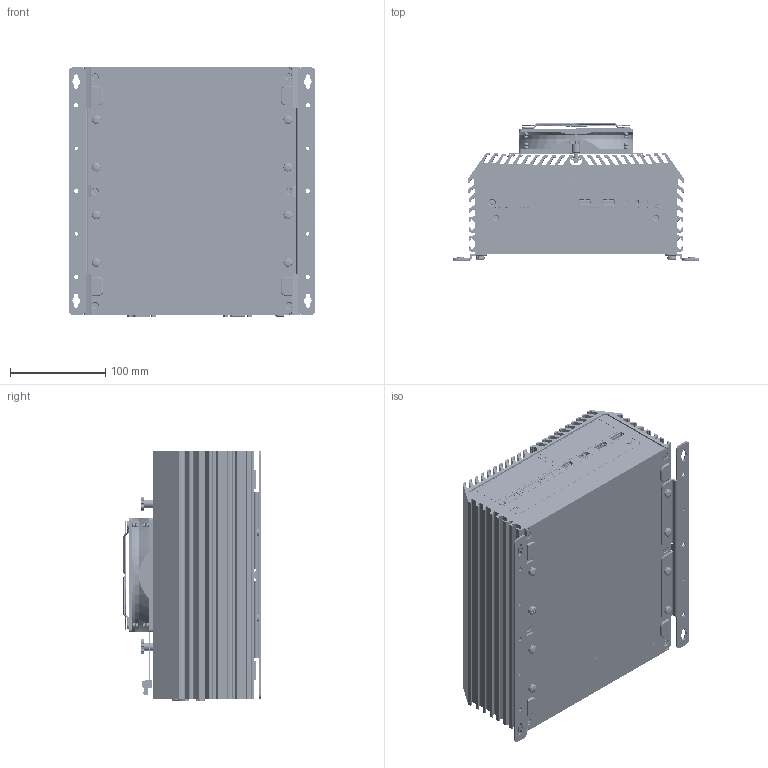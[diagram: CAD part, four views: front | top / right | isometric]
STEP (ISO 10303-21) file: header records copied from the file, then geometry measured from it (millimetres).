
FILE_DESCRIPTION (( 'STEP AP214' ), '1' );
FILE_NAME ('1-DS-1401+Wall Mount+12¡¨-¥~Æ[-20230419.STEP', '2026-07-27T05:30:15', ( '' ), ( '' ), 'SwSTEP 2.0', 'SolidWorks 2014', '' );
FILE_SCHEMA (( 'AUTOMOTIVE_DESIGN' ));
Length unit declared in the file: millimetre
Products named in the file (58): DS-1300-Front Bezel-symbol_panel(M0-ZZZZ5C30009)-20200923; MANIFOLD_SOLID_BREP_900_1_1; 23-D0351500040_CN2_MINIDIN_USBX2; 銅柱-4-4OUNC-4.8_11.8H(M3-COSD6L00000)東莞?輝; 1-DS-1401+Wall Mount+12”-外觀-20230419; MANIFOLD_SOLID_BREP_904_1_1; RUM2JA-KFJC-BCB-0R; Screw-沙拉-120-星型-T10+E型扣-黑-M3x13(M3-1103132270+M3-402004050415); VOLUMENK_S_VRPER1-4576_2_2; PWR_BTN_TC003; DS-1400-Main Board asm-20221108; DS-1101-Riser Card Bracket-A(M1-107110153400); DS-Wall Mount Bracket(M1-ZZZZ3611004); AUTIO_2IN1; RUUVI_1_1; Screw-耐落-沙拉-90-星型-T10-黑-M3x8(M3-N103082260); WHDM-19FLBSDR; 23-D0242300200_DP1_DISPLAYPORT; RITILA_ASM_1_ASM_4_ASM; Rubber Foot Shore(M4-RUFT0100001); 12_ASM_23_ASM; MANIFOLD_SOLID_BREP_903_1_1; DS-1301-Rear Bezel(M1-407130134100)-20200311; 23-D0341500040_FAN2_ECH350R_3P_1LAYER; DS-1301-Front Bezel(M1-407130124100)-20200311; 23-D0341500030_DC_IN1_5EHDRM-03P_8; MANIFOLD_SOLID_BREP_906_1_1; MANIFOLD_SOLID_BREP_905_1_1; D20H1P1PA1X2A111N2 (3D); NUT-M5; USB-3.0-SMT-T.H(122-0921NX0504); M5-SP_3; Hole Plugs(M4-RUBR0100004)-M06V0; DS-1301-Riser Card Bracket(M1-107130153400)-20210204; Screw-丸頭-十字-外齒-M5x8(M3-SCREAB00002); DS-MEC KIT-Universal Bracket(M1-ZZZZ3613001); DS-1200-Bottom Cover(M1-407120011200)-20180821; DS-1200-Front Bezel Matching Bezel(M1-407120084100); DS-1200-Bottom Cover asm-20200406; Top Cover(M1-407120106300)-DS-1201-金金-20181015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
Assembly tree (98 placements, depth 4):
  1-DS-1401+Wall Mount+12”-外觀-20230419
    DS-1400-PCBA-ASM-20230419
      DS-1400-Main Board asm-20221108
        23-D0351500040_CN1_ECHB350R-04P
        AUTIO_2IN1
        D20H1P1PA1X2A111N2 (3D)
        23-D0351500040_CN2_MINIDIN_USBX2
        D330H1SL72211DD0
        23-D0242300200_DP1_DISPLAYPORT  x2
        23-D0341500040_FAN2_ECH350R_3P_1LAYER
        23-D0341500030_DC_IN1_5EHDRM-03P_8
        PWR_BTN_TC003
        USB-3.0-SMT-T.H(122-0921NX0504)  x2
        WHDM-19FLBSDR
        RUM2JA-KFJC-BCB-0R  x2
    DS-1301-Front Bezel(M1-407130124100)-20200311
    DS-1300-Front Bezel-symbol_panel(M0-ZZZZ5C30009)-20200923
    DS-1300-Front Open Bezel(M1-407130084101)
    DS-1200-Front Bezel Matching Bezel(M1-407120084100)  x2
    DS-1301-Rear Bezel(M1-407130134100)-20200311
    DS-MEC KIT-Universal Bracket(M1-ZZZZ3613001)  x2
    DS-1201-Top Cover asm-金金-20180402
      Top Cover(M1-407120106300)-DS-1201-金金-20181015
    DS-1200-Bottom Cover asm-20200406
      DS-1200-Bottom Cover(M1-407120011200)-20180821
      Rubber Foot Shore(M4-RUFT0100001)  x4
    Screw-耐落-沙拉-120-星型-T10-黑-M3x5(M3-N103052230)  x5
    Screw-耐落-沙拉-90-星型-T10-黑-M3x8(M3-N103082260)  x6
    Screw-沙拉-120-星型-T10+E型扣-黑-M3x13(M3-1103132270+M3-402004050415)  x2
    Screw-丸頭-十字-外齒-M5x8(M3-SCREAB00002)
    Hole Plugs(M4-RUBR0100004)-M06V0  x2
    DS-Wall Mount Bracket(M1-ZZZZ3611004)  x2
    Screw-丸頭-十字-耐落-SW-M5x6(M3-SCREAB00001)  x8
    銅柱-4-4OUNC-4.8_11.8H(M3-COSD6L00000)東莞?輝  x6
    DS-1301-Riser Card Bracket asm-20210204
      DS-1301-Riser Card Bracket(M1-107130153400)-20210204
        DS-1101-Riser Card Bracket-A(M1-107110153400)
      L-Bracket(M0-LBKT2300017)
    12_ASM_23_ASM
      12-PLATE_9
      M5-SP_3  x2
      120_X_120_X_25_DC_FAN_ASM_3_ASM_ASM
        ROTOR_120MM_FAN_2_2
        VOLUMENK_S_VRPER1-4576_2_2
      NUT-M5  x2
      RUUVI_1_1  x8
      RITILA_ASM_1_ASM_4_ASM
        MANIFOLD_SOLID_BREP_899_1_1
        MANIFOLD_SOLID_BREP_900_1_1
        MANIFOLD_SOLID_BREP_901_1_1
        MANIFOLD_SOLID_BREP_902_1_1
        MANIFOLD_SOLID_BREP_903_1_1
        MANIFOLD_SOLID_BREP_904_1_1
        MANIFOLD_SOLID_BREP_905_1_1
        MANIFOLD_SOLID_BREP_906_1_1
        MANIFOLD_SOLID_BREP_907_1_1
        MANIFOLD_SOLID_BREP_908_1_1
      外接電源B-4腳
Bounding box: 259 x 143.95 x 262.9 mm (x, y, z)
Volume: 1490376.9 mm3; surface area: 884232.1 mm2
Topology: 119 solids, 287 shells, 25113 faces, 70246 edges, 45447 vertices
Faces by surface type: plane 16076, cylinder 6355, bspline 2248, cone 326, torus 54, sphere 54
Entity records: 717437 total; most frequent: CARTESIAN_POINT 204007, ORIENTED_EDGE 93286, DIRECTION 74010, EDGE_CURVE 46756, VECTOR 31874, LINE 31874, VERTEX_POINT 30318, AXIS2_PLACEMENT_3D 21068
